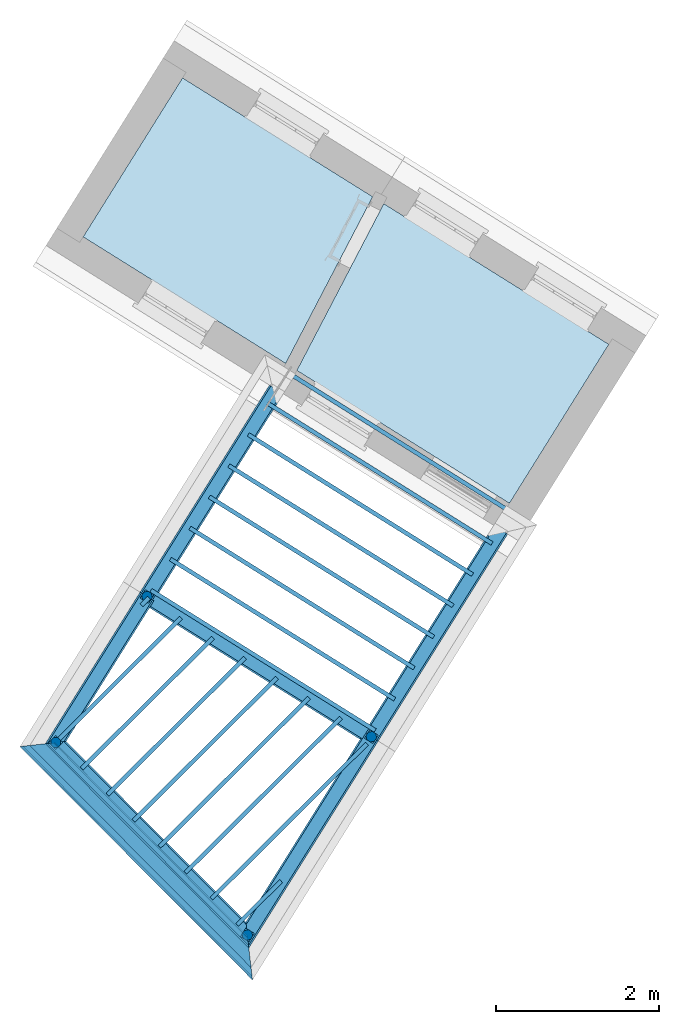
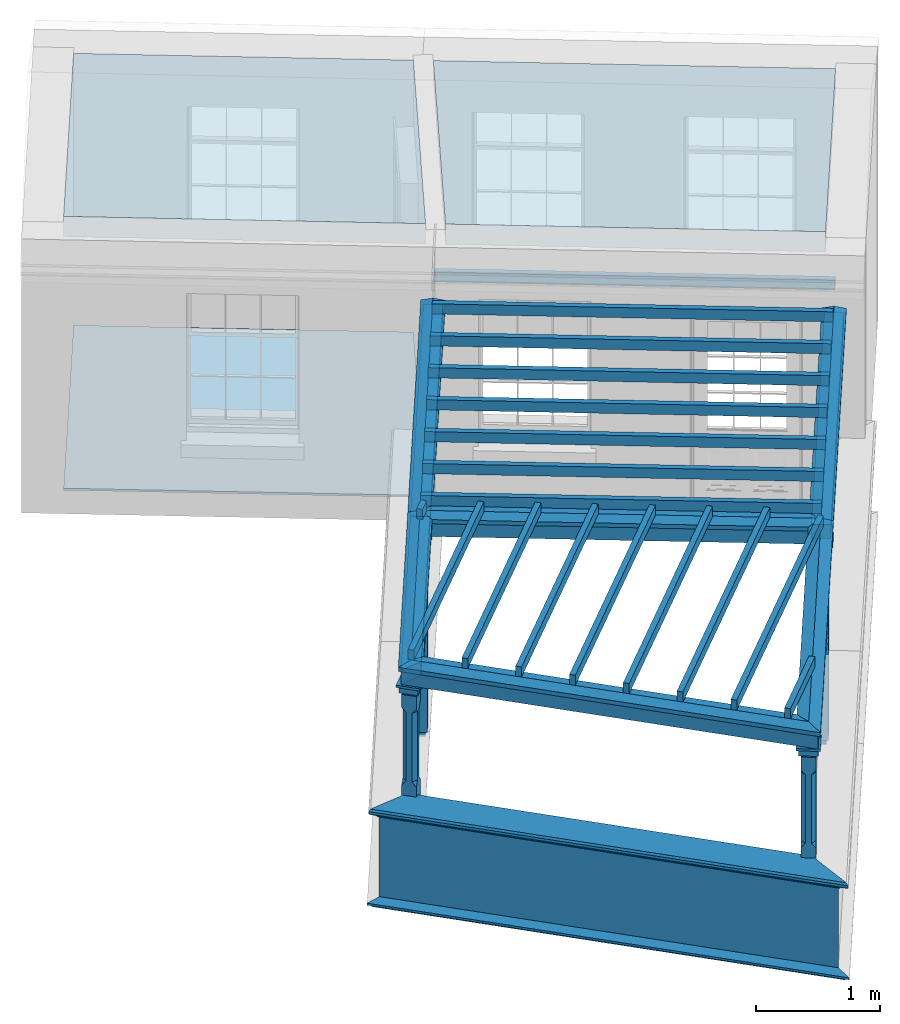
# One storey, part 1 of 5: 29 beams, 4 columns, 3 slabs, 3 walls.
"""IFC4 building model written with IfcOpenShell, lengths in metres."""

import ifcopenshell
import ifcopenshell.guid

model = None  # the IFC model being written
_history = None  # IfcOwnerHistory: only IFC2X3 demands one
_inside = {}  # id of a spatial element -> (the spatial element, [elements in it])
_under = {}  # id of a project, library or spatial element -> (it, [spatial elements below it])
_declared = {}  # id of a project -> (the project, [libraries it declares])
_typed = {}  # id of a type object -> (the type object, [elements of that type])
_made_of = {}  # id of a material, layer set ... -> (it, [elements and type objects made of it])


def new_model(schema):
    """Start an empty IFC model of exactly this schema.

    Asked for "IFC4X3", IfcOpenShell would pick the latest addendum, in which some entities
    have other attributes; the version numbers below select the first issue.
    IFC2X3 requires an IfcOwnerHistory on every rooted entity: one is made here for all.
    """
    global model, _history
    if schema == "IFC4X3":
        model = ifcopenshell.file(schema_version=(4, 3, 0, 0))
    else:
        model = ifcopenshell.file(schema=schema)
    _inside.clear()
    _under.clear()
    _declared.clear()
    _typed.clear()
    _made_of.clear()
    _history = None
    if model.schema == "IFC2X3":
        org = make("IfcOrganization", Name="unknown")
        user = make(
            "IfcPersonAndOrganization",
            ThePerson=make("IfcPerson", FamilyName="unknown"),
            TheOrganization=org,
        )
        app = make(
            "IfcApplication",
            ApplicationDeveloper=org,
            Version="unknown",
            ApplicationFullName="unknown",
            ApplicationIdentifier="unknown",
        )
        _history = make(
            "IfcOwnerHistory",
            OwningUser=user,
            OwningApplication=app,
            ChangeAction="ADDED",
            CreationDate=0,
        )
    return model


def make(cls, **values):
    """One entity of the class cls with the attributes given. An attribute that is None is left unset."""
    return model.create_entity(
        cls, **{name: value for name, value in values.items() if value is not None}
    )


def rooted(cls, **values):
    """An entity with a GlobalId (a new one), such as an element, a storey or a relation."""
    return make(cls, GlobalId=ifcopenshell.guid.new(), OwnerHistory=_history, **values)


def si_unit(unit_type, name, prefix=None):
    """IfcSIUnit, for example si_unit("LENGTHUNIT", "METRE", prefix="MILLI")."""
    return make("IfcSIUnit", UnitType=unit_type, Prefix=prefix, Name=name)


def assignment(units):
    """IfcUnitAssignment: the units of a project."""
    return None if units is None else make("IfcUnitAssignment", Units=units)


def point(xyz):
    """IfcCartesianPoint."""
    return None if xyz is None else make("IfcCartesianPoint", Coordinates=xyz)


def direction(xyz):
    """IfcDirection."""
    return None if xyz is None else make("IfcDirection", DirectionRatios=xyz)


def frame(location, z_axis=None, x_axis=None):
    """IfcAxis2Placement3D, a coordinate frame: its origin and axes. An axis left out is left unset."""
    return make(
        "IfcAxis2Placement3D",
        Location=point(location),
        Axis=direction(z_axis),
        RefDirection=direction(x_axis),
    )


def origin():
    """The frame at (0, 0, 0) with its axes left unset."""
    return frame((0.0, 0.0, 0.0))


def origin_with_axes():
    """The frame at (0, 0, 0) with the z axis (0, 0, 1) and the x axis (1, 0, 0) written out."""
    return frame((0.0, 0.0, 0.0), z_axis=(0.0, 0.0, 1.0), x_axis=(1.0, 0.0, 0.0))


def place(relative_to, where):
    """IfcLocalPlacement: puts the frame where relative to a parent placement (None: the world)."""
    return make(
        "IfcLocalPlacement", PlacementRelTo=relative_to, RelativePlacement=where
    )


def context(
    kind, dimensions, precision=None, world=None, true_north=None, identifier=None
):
    """IfcGeometricRepresentationContext, for example the 3D "Model" context."""
    return make(
        "IfcGeometricRepresentationContext",
        ContextIdentifier=identifier,
        ContextType=kind,
        CoordinateSpaceDimension=dimensions,
        Precision=precision,
        WorldCoordinateSystem=world,
        TrueNorth=true_north,
    )


def subcontext(parent, identifier, kind, view, scale=None):
    """IfcGeometricRepresentationSubContext, for example "Body" below "Model"."""
    return make(
        "IfcGeometricRepresentationSubContext",
        ContextIdentifier=identifier,
        ContextType=kind,
        ParentContext=parent,
        TargetScale=scale,
        TargetView=view,
    )


def project(units=None, contexts=None):
    """IfcProject with its units and contexts."""
    return rooted(
        "IfcProject",
        Name="project",
        RepresentationContexts=contexts,
        UnitsInContext=assignment(units),
    )


def spatial(cls, under=None, at=None, **own):
    """A site, building, storey or space (cls), placed at a placement, below another one or the project."""
    s = rooted(cls, ObjectPlacement=at, **own)
    if under is not None:
        _under.setdefault(under.id(), (under, []))[1].append(s)
    return s


def polyline(points):
    """IfcPolyline through the points."""
    return make("IfcPolyline", Points=[point(p) for p in points])


def outline(outer, holes=None, kind="AREA"):
    """IfcArbitraryClosedProfileDef: a profile drawn as a closed curve; with holes, ...WithVoids."""
    if holes is None:
        return make("IfcArbitraryClosedProfileDef", ProfileType=kind, OuterCurve=outer)
    return make(
        "IfcArbitraryProfileDefWithVoids",
        ProfileType=kind,
        OuterCurve=outer,
        InnerCurves=holes,
    )


def extrude(swept, where, along, depth):
    """IfcExtrudedAreaSolid: the profile swept, set in the frame where, extruded along a direction by depth."""
    return make(
        "IfcExtrudedAreaSolid",
        SweptArea=swept,
        Position=where,
        ExtrudedDirection=direction(along),
        Depth=depth,
    )


def clip(a, b, op="DIFFERENCE"):
    """IfcBooleanClippingResult: the solid a cut by the half space b."""
    return make(
        "IfcBooleanClippingResult", Operator=op, FirstOperand=a, SecondOperand=b
    )


def halfspace(plane, agree):
    """IfcHalfSpaceSolid: all space on one side of the plane z = 0 of the frame plane."""
    return make(
        "IfcHalfSpaceSolid",
        BaseSurface=make("IfcPlane", Position=plane),
        AgreementFlag=agree,
    )


def faces_of(points, faces, orient=None, outer=None):
    """IfcFace entities. A face is a list of loops; a loop is a list of indices into points, from 0.

    orient and outer hold one flag for each loop. By default every Orientation is true, the
    first loop of a face is its IfcFaceOuterBound and the others are IfcFaceBound.
    """
    made = []
    for i, loops in enumerate(faces):
        bounds = []
        for j, loop in enumerate(loops):
            is_outer = j == 0 if outer is None else outer[i][j]
            bounds.append(
                make(
                    "IfcFaceOuterBound" if is_outer else "IfcFaceBound",
                    Bound=make("IfcPolyLoop", Polygon=[points[k] for k in loop]),
                    Orientation=True if orient is None else orient[i][j],
                )
            )
        made.append(make("IfcFace", Bounds=bounds))
    return made


def faceted_brep(points, faces, orient=None, outer=None, voids=None):
    """IfcFacetedBrep: a solid bounded by flat faces; with voids (closed shells), ...WithVoids."""
    shared = [point(p) for p in points]
    hull = make("IfcClosedShell", CfsFaces=faces_of(shared, faces, orient, outer))
    if voids is None:
        return make("IfcFacetedBrep", Outer=hull)
    return make(
        "IfcFacetedBrepWithVoids",
        Outer=hull,
        Voids=[
            make(cls, CfsFaces=faces_of(shared, fs, o, b)) for cls, fs, o, b in voids
        ],
    )


def shape(context_of_items, identifier, shape_type, items):
    """IfcShapeRepresentation: the items that make up one representation, for example the "Body"."""
    return make(
        "IfcShapeRepresentation",
        ContextOfItems=context_of_items,
        RepresentationIdentifier=identifier,
        RepresentationType=shape_type,
        Items=items,
    )


def source(mapping_origin, context_of_items, identifier, shape_type, items):
    """IfcRepresentationMap: a shape defined once, which mapped items show again and again."""
    return make(
        "IfcRepresentationMap",
        MappingOrigin=mapping_origin,
        MappedRepresentation=shape(context_of_items, identifier, shape_type, items),
    )


def transform(
    local_origin,
    x_axis=None,
    y_axis=None,
    z_axis=None,
    scale=None,
    scale2=None,
    scale3=None,
    uniform=True,
):
    """IfcCartesianTransformationOperator3D, or its non-uniform kind. x_axis, y_axis, z_axis: its Axis1, 2, 3."""
    if uniform:
        return make(
            "IfcCartesianTransformationOperator3D",
            Axis1=direction(x_axis),
            Axis2=direction(y_axis),
            LocalOrigin=point(local_origin),
            Scale=scale,
            Axis3=direction(z_axis),
        )
    return make(
        "IfcCartesianTransformationOperator3DnonUniform",
        Axis1=direction(x_axis),
        Axis2=direction(y_axis),
        LocalOrigin=point(local_origin),
        Scale=scale,
        Axis3=direction(z_axis),
        Scale2=scale2,
        Scale3=scale3,
    )


def mapped(mapping_source, mapping_target):
    """IfcMappedItem: shows the shape of a source again, moved by a transform."""
    return make(
        "IfcMappedItem", MappingSource=mapping_source, MappingTarget=mapping_target
    )


def material_profile(
    of_material, cross_section, Name=None, Category=None, Priority=None
):
    """IfcMaterialProfile: a cross section and its material."""
    return make(
        "IfcMaterialProfile",
        Name=Name,
        Material=of_material,
        Profile=cross_section,
        Priority=Priority,
        Category=Category,
    )


def profile_set(profiles, Name=None, composite=None):
    """IfcMaterialProfileSet."""
    return make(
        "IfcMaterialProfileSet",
        Name=Name,
        MaterialProfiles=profiles,
        CompositeProfile=composite,
    )


def profile_usage(for_profile_set, cardinal=None, extent=None):
    """IfcMaterialProfileSetUsage: how a profile set lies along its element."""
    return make(
        "IfcMaterialProfileSetUsage",
        ForProfileSet=for_profile_set,
        CardinalPoint=cardinal,
        ReferenceExtent=extent,
    )


def made_of(thing, what):
    """Note that an element or type object is made of a material, layer set ...; save() writes the relation."""
    if what is not None:
        _made_of.setdefault(what.id(), (what, []))[1].append(thing)
    return thing


def type_object(cls, material=None, **own):
    """A type object (cls), such as IfcWallType, which elements share."""
    return made_of(rooted(cls, **own), material)


def type_shapes(of_type, sources):
    """Give a type object the sources (RepresentationMaps) that its elements show as mapped items."""
    of_type.RepresentationMaps = sources


def element(
    cls,
    number,
    at=None,
    inside=None,
    cuts=None,
    type_object=None,
    material=None,
    context=None,
    identifier="Body",
    shape_type=None,
    held_by="IfcProductDefinitionShape",
    body=None,
    shapes=None,
    **own,
):
    """One element of the class cls, such as IfcWall. Its Tag is "e" and its number.

    at: its placement. inside: the storey or other place that contains it. cuts: it is an
    opening in that element (IfcRelVoidsElement). A single representation is given by context,
    identifier, shape_type and body (its items); several are given by shapes. held_by: the class
    of the entity that holds the representations. save() writes the other relations.
    """
    e = rooted(cls, Tag="e%d" % number, ObjectPlacement=at, **own)
    if body is not None:
        shapes = [shape(context, identifier, shape_type, body)]
    if shapes is not None:
        e.Representation = make(held_by, Representations=shapes)
    if inside is not None:
        _inside.setdefault(inside.id(), (inside, []))[1].append(e)
    if cuts is not None:
        rooted(
            "IfcRelVoidsElement", RelatingBuildingElement=cuts, RelatedOpeningElement=e
        )
    if type_object is not None:
        _typed.setdefault(type_object.id(), (type_object, []))[1].append(e)
    return made_of(e, material)


def aggregate(whole, parts):
    """IfcRelAggregates: a whole, such as a stair, and the parts it consists of."""
    return rooted("IfcRelAggregates", RelatingObject=whole, RelatedObjects=parts)


def save(model, path):
    """Write the relations noted so far, then the file.

    IfcRelAggregates (storeys below a building ...), IfcRelContainedInSpatialStructure (elements
    in a storey), IfcRelDefinesByType, IfcRelAssociatesMaterial and IfcRelDeclares: one each for
    every whole, place, type object, material and project.
    """
    for whole, parts in _under.values():
        aggregate(whole, parts)
    for where, things in _inside.values():
        rooted(
            "IfcRelContainedInSpatialStructure",
            RelatedElements=things,
            RelatingStructure=where,
        )
    for kind, things in _typed.values():
        rooted("IfcRelDefinesByType", RelatedObjects=things, RelatingType=kind)
    for what, things in _made_of.values():
        rooted("IfcRelAssociatesMaterial", RelatedObjects=things, RelatingMaterial=what)
    for by, libraries in _declared.values():
        rooted("IfcRelDeclares", RelatingContext=by, RelatedDefinitions=libraries)
    model.write(path)


model = new_model("IFC4")

# Units and contexts
model_context = context("Model", 3, world=origin_with_axes())
body_context = subcontext(model_context, "Body", "Model", "MODEL_VIEW")
ifc_project = project(units=[si_unit("PLANEANGLEUNIT", "RADIAN"), si_unit("MASSUNIT", "GRAM", prefix="KILO"), si_unit("FORCEUNIT", "NEWTON", prefix="KILO"), si_unit("LENGTHUNIT", "METRE"), si_unit("AREAUNIT", "SQUARE_METRE"), si_unit("VOLUMEUNIT", "CUBIC_METRE")], contexts=[model_context, model_context])

# Sites, building, storey
site_1_placement = place(None, origin_with_axes())
site_1 = spatial("IfcSite", under=ifc_project, at=site_1_placement, Name="Tamar")
site_2_placement = place(site_1_placement, origin_with_axes())
site_2 = spatial("IfcSite", under=site_1, at=site_2_placement, Name="Site plot-3", CompositionType="ELEMENT")
building_placement = place(None, origin_with_axes())
building = spatial("IfcBuilding", under=site_2, at=building_placement, Name="Building plot-3", CompositionType="ELEMENT")
storey_placement = place(None, frame((0.0, 0.0, 30.5), z_axis=(0.0, 0.0, 1.0), x_axis=(1.0, 0.0, 0.0)))
storey = spatial("IfcBuildingStorey", under=building, at=storey_placement, Name="plot-3 2", CompositionType="ELEMENT", Elevation=30.5)

# Columns
column_type = type_object("IfcColumnType", Name="pergola post", PredefinedType="NOTDEFINED")
shared_shape = source(origin(), body_context, "Body", "Brep", [
    faceted_brep([(0.0246, -0.0615, 1.72), (0.0615, -0.0246, 1.72), (0.0615, -0.0615, 1.766667), (0.0615, -0.0246, 1.044444), (0.0246, -0.0615, 1.044444), (0.0615, 0.0246, 1.72), (0.0615, 0.0615, 1.766667), (-0.0246, -0.0615, 1.72), (-0.0615, -0.0615, 1.766667), (-0.0246, -0.0615, 1.044444), (0.0615, -0.0615, 0.997778), (0.0615, 0.0246, 1.044444), (0.0246, 0.0615, 1.72), (0.0615, 0.0615, 1.891111), (0.0615, -0.0615, 1.891111), (-0.0615, -0.0615, 1.891111), (-0.0615, -0.0246, 1.72), (-0.0615, -0.0246, 1.044444), (-0.0615, -0.0615, 0.997778), (0.0615, 0.0615, 0.997778), (0.0246, 0.0615, 1.044444), (-0.0246, 0.0615, 1.72), (-0.0615, 0.0615, 1.766667), (0.04305, 0.04305, 1.891111), (0.04305, -0.04305, 1.891111), (-0.0615, 0.0615, 1.891111), (-0.04305, -0.04305, 1.891111), (-0.0615, 0.0246, 1.72), (-0.0615, 0.0246, 1.044444), (0.0615, -0.0615, 0.053333), (-0.0615, -0.0615, 0.053333), (0.0615, 0.0615, 0.053333), (-0.0246, 0.0615, 1.044444), (-0.04305, 0.04305, 1.891111), (0.04305, 0.04305, 1.914444), (0.04305, -0.04305, 1.914444), (-0.04305, -0.04305, 1.914444), (-0.0615, 0.0615, 0.997778), (-0.0615, 0.0615, 0.053333), (-0.04305, -0.04305, 0.053333), (0.04305, -0.04305, 0.053333), (0.04305, 0.04305, 0.053333), (-0.04305, 0.04305, 1.914444), (0.07995, 0.07995, 1.914444), (0.07995, -0.07995, 1.914444), (-0.07995, -0.07995, 1.914444), (-0.04305, 0.04305, 0.053333), (-0.04305, -0.04305, 0.0), (0.04305, -0.04305, 0.0), (0.04305, 0.04305, 0.0), (-0.07995, 0.07995, 1.914444), (0.07995, 0.07995, 1.976667), (0.07995, -0.07995, 1.976667), (-0.07995, -0.07995, 1.976667), (-0.04305, 0.04305, 0.0), (-0.07995, 0.07995, 1.976667), (0.0984, 0.0984, 1.976667), (0.0984, -0.0984, 1.976667), (-0.0984, -0.0984, 1.976667), (-0.0984, 0.0984, 1.976667), (0.0984, 0.0984, 2.0), (0.0984, -0.0984, 2.0), (-0.0984, -0.0984, 2.0), (-0.0984, 0.0984, 2.0)], [[[0, 1, 2]], [[3, 1, 0, 4]], [[1, 5, 6, 2]], [[7, 0, 2, 8]], [[4, 0, 7, 9]], [[3, 4, 10]], [[1, 3, 11, 5]], [[5, 12, 6]], [[13, 14, 2, 6]], [[15, 8, 2, 14]], [[8, 16, 7]], [[9, 7, 16, 17]], [[9, 18, 10, 4]], [[3, 10, 19, 11]], [[20, 12, 5, 11]], [[21, 22, 6, 12]], [[14, 13, 23, 24]], [[13, 6, 22, 25]], [[25, 22, 8, 15]], [[26, 15, 14, 24]], [[16, 8, 22, 27]], [[27, 28, 17, 16]], [[17, 18, 9]], [[29, 10, 18, 30]], [[31, 19, 10, 29]], [[20, 11, 19]], [[12, 20, 32, 21]], [[21, 27, 22]], [[33, 23, 13, 25]], [[23, 34, 35, 24]], [[26, 33, 25, 15]], [[36, 26, 24, 35]], [[28, 27, 21, 32]], [[17, 28, 37, 18]], [[38, 30, 18, 37]], [[29, 30, 39, 40]], [[31, 38, 37, 19]], [[40, 41, 31, 29]], [[32, 20, 19, 37]], [[33, 42, 34, 23]], [[43, 44, 35, 34]], [[42, 33, 26, 36]], [[36, 35, 44, 45]], [[28, 32, 37]], [[46, 39, 30, 38]], [[39, 47, 48, 40]], [[46, 38, 31, 41]], [[49, 41, 40, 48]], [[43, 34, 42, 50]], [[43, 51, 52, 44]], [[45, 50, 42, 36]], [[53, 45, 44, 52]], [[46, 54, 47, 39]], [[54, 46, 41, 49]], [[50, 55, 51, 43]], [[56, 57, 52, 51]], [[55, 50, 45, 53]], [[53, 52, 57, 58]], [[56, 51, 55, 59]], [[56, 60, 61, 57]], [[58, 59, 55, 53]], [[62, 58, 57, 61]], [[59, 63, 60, 56]], [[63, 62, 61, 60]], [[58, 62, 63, 59]], [[47, 54, 49, 48]]]),
])
type_shapes(column_type, [shared_shape])
for number, where, z_axis, x_axis, name in (
    (1, (214.569377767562, 283.319229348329, 0.0), (0.0, 0.0, 1.0), (-0.530026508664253, -0.84798107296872, 0.0), "pergola post"),
    (2, (213.451676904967, 281.531037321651, 0.0), (0.0, 0.0, 1.0), (0.705643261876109, -0.708567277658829, 0.0), "pergola post"),
    (3, (215.799060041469, 279.1739271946, 0.0), (0.0, 0.0, 1.0), (0.530026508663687, 0.847981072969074, 0.0), "pergola post"),
    (4, (217.316723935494, 281.602013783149, 0.0), (0.0, 0.0, 1.0), (0.530026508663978, 0.847981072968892, 0.0), "pergola post"),
):
    element("IfcColumn", number, at=place(storey_placement, frame(where, z_axis=z_axis, x_axis=x_axis)), inside=storey, type_object=column_type, Name=name, context=body_context, shape_type="MappedRepresentation", body=[
        mapped(shared_shape, transform((0.0, 0.0, 0.0), scale=1.0)),
    ])

# Beams
ifc_material_profile_1 = material_profile(None, outline(polyline([(-0.08, -0.7), (0.08, -0.7), (0.08, -0.56), (-0.08, -0.56), (-0.08, -0.7)])))
ifc_profile_set_1 = profile_set([ifc_material_profile_1])
ifc_profile_usage_1 = profile_usage(ifc_profile_set_1)
beam_type_1 = type_object("IfcBeamType", Name="pergola beam_0", PredefinedType="NOTDEFINED", material=ifc_profile_set_1)
beam_1_placement = place(storey_placement, frame((214.039351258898, 282.47124827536, 2.7), z_axis=(0.530026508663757, 0.847981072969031, 0.0), x_axis=(-0.847981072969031, 0.530026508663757, 0.0)))
element("IfcBeam", 5, at=beam_1_placement, inside=storey, type_object=beam_type_1, material=ifc_profile_usage_1, Name="pergola beam_0", context=body_context, shape_type="Clipping", body=[
    clip(clip(extrude(outline(polyline([(-0.08, -0.7), (0.08, -0.7), (0.08, -0.56), (-0.08, -0.56), (-0.08, -0.7)])), origin_with_axes(), (0.0, 0.0, 1.0), 4.9905956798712), halfspace(frame((0.0, 0.0, 3.9905956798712), z_axis=(1.71512449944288e-15, 0.0, -1.0), x_axis=(0.0, 1.0, 0.0)), True)), halfspace(frame((0.0, 0.0, 1.0), z_axis=(1.71512449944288e-15, 0.0, -1.0), x_axis=(0.0, 1.0, 0.0)), False)),
])
ifc_profile_usage_2 = profile_usage(ifc_profile_set_1)
beam_2_placement = place(storey_placement, frame((212.921650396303, 280.683056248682, 2.7), z_axis=(0.530026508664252, 0.847981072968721, 0.0), x_axis=(-0.847981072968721, 0.530026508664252, 0.0)))
element("IfcBeam", 6, at=beam_2_placement, inside=storey, type_object=beam_type_1, material=ifc_profile_usage_2, Name="pergola beam_0", context=body_context, shape_type="Clipping", body=[
    clip(clip(extrude(outline(polyline([(-0.08, -0.7), (0.08, -0.7), (0.08, -0.56), (-0.08, -0.56), (-0.08, -0.7)])), origin_with_axes(), (0.0, 0.0, 1.0), 4.10876407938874), halfspace(frame((0.0, 0.0, 3.10876407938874), z_axis=(-5.82706275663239e-13, 0.0, -1.0), x_axis=(0.0, 1.0, 0.0)), True)), halfspace(frame((0.0, 0.0, 1.0), z_axis=(-0.621754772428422, 0.0, -0.783211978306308), x_axis=(0.0, 1.0, 0.0)), False)),
])
ifc_profile_usage_3 = profile_usage(ifc_profile_set_1)
beam_3_placement = place(storey_placement, frame((216.504703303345, 278.465359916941, 2.7), z_axis=(-0.705643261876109, 0.70856727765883, 0.0), x_axis=(-0.70856727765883, -0.705643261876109, 0.0)))
element("IfcBeam", 7, at=beam_3_placement, inside=storey, type_object=beam_type_1, material=ifc_profile_usage_3, Name="pergola beam_0", context=body_context, shape_type="Clipping", body=[
    clip(clip(extrude(outline(polyline([(-0.08, -0.7), (0.08, -0.7), (0.08, -0.56), (-0.08, -0.56), (-0.08, -0.7)])), origin_with_axes(), (0.0, 0.0, 1.0), 5.32658619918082), halfspace(frame((0.0, 0.0, 4.32658619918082), z_axis=(0.621754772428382, 0.0, -0.783211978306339), x_axis=(0.0, 1.0, 0.0)), True)), halfspace(frame((0.0, 0.0, 1.0), z_axis=(-0.783211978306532, 0.0, -0.621754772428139), x_axis=(0.0, 1.0, 0.0)), False)),
])
ifc_profile_usage_4 = profile_usage(ifc_profile_set_1)
beam_4_placement = place(storey_placement, frame((217.846750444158, 282.449994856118, 2.7), z_axis=(-0.530026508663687, -0.847981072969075, 0.0), x_axis=(0.847981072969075, -0.530026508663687, 0.0)))
element("IfcBeam", 8, at=beam_4_placement, inside=storey, type_object=beam_type_1, material=ifc_profile_usage_4, Name="pergola beam_0", context=body_context, shape_type="Clipping", body=[
    clip(clip(extrude(outline(polyline([(-0.08, -0.7), (0.08, -0.7), (0.08, -0.56), (-0.08, -0.56), (-0.08, -0.7)])), origin_with_axes(), (0.0, 0.0, 1.0), 4.86337356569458), halfspace(frame((0.0, 0.0, 3.86337356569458), z_axis=(0.78321197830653, 0.0, -0.621754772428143), x_axis=(0.0, 1.0, 0.0)), True)), halfspace(frame((0.0, 0.0, 1.0), z_axis=(6.60010580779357e-15, 0.0, -1.0), x_axis=(0.0, 1.0, 0.0)), False)),
])
ifc_profile_usage_5 = profile_usage(ifc_profile_set_1)
beam_5_placement = place(storey_placement, frame((219.431845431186, 284.985963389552, 2.7), z_axis=(-0.530026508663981, -0.847981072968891, 0.0), x_axis=(0.847981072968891, -0.530026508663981, 0.0)))
element("IfcBeam", 9, at=beam_5_placement, inside=storey, type_object=beam_type_1, material=ifc_profile_usage_5, Name="pergola beam_0", context=body_context, shape_type="Clipping", body=[
    clip(clip(extrude(outline(polyline([(-0.08, -0.7), (0.08, -0.7), (0.08, -0.56), (-0.08, -0.56), (-0.08, -0.7)])), origin_with_axes(), (0.0, 0.0, 1.0), 4.99059567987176), halfspace(frame((0.0, 0.0, 3.99059567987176), z_axis=(-3.40233567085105e-13, 0.0, -1.0), x_axis=(0.0, 1.0, 0.0)), True)), halfspace(frame((0.0, 0.0, 1.0), z_axis=(6.15601659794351e-15, 0.0, -1.0), x_axis=(0.0, 1.0, 0.0)), False)),
])
ifc_material_profile_2 = material_profile(None, outline(polyline([(0.0, -0.5), (-0.1, -0.52), (-0.1, -0.56), (0.1, -0.56), (0.1, -0.52), (0.0, -0.5)])))
ifc_profile_set_2 = profile_set([ifc_material_profile_2])
ifc_profile_usage_6 = profile_usage(ifc_profile_set_2)
beam_type_2 = type_object("IfcBeamType", Name="pergola beam_1", PredefinedType="NOTDEFINED", material=ifc_profile_set_2)
beam_6_placement = place(storey_placement, frame((214.039351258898, 282.47124827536, 2.7), z_axis=(0.530026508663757, 0.847981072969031, 0.0), x_axis=(-0.847981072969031, 0.530026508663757, 0.0)))
element("IfcBeam", 10, at=beam_6_placement, inside=storey, type_object=beam_type_2, material=ifc_profile_usage_6, Name="pergola beam_1", context=body_context, shape_type="Clipping", body=[
    clip(clip(extrude(outline(polyline([(0.0, -0.5), (-0.1, -0.52), (-0.1, -0.56), (0.1, -0.56), (0.1, -0.52), (0.0, -0.5)])), origin_with_axes(), (0.0, 0.0, 1.0), 4.9905956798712), halfspace(frame((0.0, 0.0, 3.9905956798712), z_axis=(1.71512449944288e-15, 0.0, -1.0), x_axis=(0.0, 1.0, 0.0)), True)), halfspace(frame((0.0, 0.0, 1.0), z_axis=(1.71512449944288e-15, 0.0, -1.0), x_axis=(0.0, 1.0, 0.0)), False)),
])
ifc_profile_usage_7 = profile_usage(ifc_profile_set_2)
beam_7_placement = place(storey_placement, frame((212.921650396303, 280.683056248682, 2.7), z_axis=(0.530026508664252, 0.847981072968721, 0.0), x_axis=(-0.847981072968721, 0.530026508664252, 0.0)))
element("IfcBeam", 11, at=beam_7_placement, inside=storey, type_object=beam_type_2, material=ifc_profile_usage_7, Name="pergola beam_1", context=body_context, shape_type="Clipping", body=[
    clip(clip(extrude(outline(polyline([(0.0, -0.5), (-0.1, -0.52), (-0.1, -0.56), (0.1, -0.56), (0.1, -0.52), (0.0, -0.5)])), origin_with_axes(), (0.0, 0.0, 1.0), 4.10876407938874), halfspace(frame((0.0, 0.0, 3.10876407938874), z_axis=(-5.82706275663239e-13, 0.0, -1.0), x_axis=(0.0, 1.0, 0.0)), True)), halfspace(frame((0.0, 0.0, 1.0), z_axis=(-0.621754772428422, 0.0, -0.783211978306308), x_axis=(0.0, 1.0, 0.0)), False)),
])
ifc_profile_usage_8 = profile_usage(ifc_profile_set_2)
beam_8_placement = place(storey_placement, frame((216.504703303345, 278.465359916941, 2.7), z_axis=(-0.705643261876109, 0.70856727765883, 0.0), x_axis=(-0.70856727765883, -0.705643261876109, 0.0)))
element("IfcBeam", 12, at=beam_8_placement, inside=storey, type_object=beam_type_2, material=ifc_profile_usage_8, Name="pergola beam_1", context=body_context, shape_type="Clipping", body=[
    clip(clip(extrude(outline(polyline([(0.0, -0.5), (-0.1, -0.52), (-0.1, -0.56), (0.1, -0.56), (0.1, -0.52), (0.0, -0.5)])), origin_with_axes(), (0.0, 0.0, 1.0), 5.32658619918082), halfspace(frame((0.0, 0.0, 4.32658619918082), z_axis=(0.621754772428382, 0.0, -0.783211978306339), x_axis=(0.0, 1.0, 0.0)), True)), halfspace(frame((0.0, 0.0, 1.0), z_axis=(-0.783211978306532, 0.0, -0.621754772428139), x_axis=(0.0, 1.0, 0.0)), False)),
])
ifc_profile_usage_9 = profile_usage(ifc_profile_set_2)
beam_9_placement = place(storey_placement, frame((217.846750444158, 282.449994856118, 2.7), z_axis=(-0.530026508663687, -0.847981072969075, 0.0), x_axis=(0.847981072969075, -0.530026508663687, 0.0)))
element("IfcBeam", 13, at=beam_9_placement, inside=storey, type_object=beam_type_2, material=ifc_profile_usage_9, Name="pergola beam_1", context=body_context, shape_type="Clipping", body=[
    clip(clip(extrude(outline(polyline([(0.0, -0.5), (-0.1, -0.52), (-0.1, -0.56), (0.1, -0.56), (0.1, -0.52), (0.0, -0.5)])), origin_with_axes(), (0.0, 0.0, 1.0), 4.86337356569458), halfspace(frame((0.0, 0.0, 3.86337356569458), z_axis=(0.78321197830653, 0.0, -0.621754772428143), x_axis=(0.0, 1.0, 0.0)), True)), halfspace(frame((0.0, 0.0, 1.0), z_axis=(6.60010580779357e-15, 0.0, -1.0), x_axis=(0.0, 1.0, 0.0)), False)),
])
ifc_profile_usage_10 = profile_usage(ifc_profile_set_2)
beam_10_placement = place(storey_placement, frame((219.431845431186, 284.985963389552, 2.7), z_axis=(-0.530026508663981, -0.847981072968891, 0.0), x_axis=(0.847981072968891, -0.530026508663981, 0.0)))
element("IfcBeam", 14, at=beam_10_placement, inside=storey, type_object=beam_type_2, material=ifc_profile_usage_10, Name="pergola beam_1", context=body_context, shape_type="Clipping", body=[
    clip(clip(extrude(outline(polyline([(0.0, -0.5), (-0.1, -0.52), (-0.1, -0.56), (0.1, -0.56), (0.1, -0.52), (0.0, -0.5)])), origin_with_axes(), (0.0, 0.0, 1.0), 4.99059567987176), halfspace(frame((0.0, 0.0, 3.99059567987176), z_axis=(-3.40233567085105e-13, 0.0, -1.0), x_axis=(0.0, 1.0, 0.0)), True)), halfspace(frame((0.0, 0.0, 1.0), z_axis=(6.15601659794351e-15, 0.0, -1.0), x_axis=(0.0, 1.0, 0.0)), False)),
])
ifc_material_profile_3 = material_profile(None, outline(polyline([(-0.08, -0.7), (0.08, -0.7), (0.08, -0.56), (-0.08, -0.56), (-0.08, -0.7)])))
ifc_profile_set_3 = profile_set([ifc_material_profile_3])
ifc_profile_usage_11 = profile_usage(ifc_profile_set_3)
beam_type_3 = type_object("IfcBeamType", Name="pergola beam_0", PredefinedType="NOTDEFINED", material=ifc_profile_set_3)
beam_11_placement = place(storey_placement, frame((218.122305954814, 281.098488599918, 2.7), z_axis=(-0.847981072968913, 0.530026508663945, 0.0), x_axis=(-0.530026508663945, -0.847981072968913, 0.0)))
element("IfcBeam", 15, at=beam_11_placement, inside=storey, type_object=beam_type_3, material=ifc_profile_usage_11, Name="pergola beam_0", context=body_context, shape_type="Clipping", body=[
    clip(clip(extrude(outline(polyline([(-0.08, -0.7), (0.08, -0.7), (0.08, -0.56), (-0.08, -0.56), (-0.08, -0.7)])), origin_with_axes(), (0.0, 0.0, 1.0), 5.13986732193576), halfspace(frame((0.0, 0.0, 4.13986732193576), z_axis=(-6.05643667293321e-15, 0.0, -1.0), x_axis=(0.0, 1.0, 0.0)), True)), halfspace(frame((0.0, 0.0, 1.0), z_axis=(-6.05643667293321e-15, 0.0, -1.0), x_axis=(0.0, 1.0, 0.0)), False)),
])
ifc_material_profile_4 = material_profile(None, outline(polyline([(0.0, -0.5), (-0.1, -0.52), (-0.1, -0.56), (0.1, -0.56), (0.1, -0.52), (0.0, -0.5)])))
ifc_profile_set_4 = profile_set([ifc_material_profile_4])
ifc_profile_usage_12 = profile_usage(ifc_profile_set_4)
beam_type_4 = type_object("IfcBeamType", Name="pergola beam_1", PredefinedType="NOTDEFINED", material=ifc_profile_set_4)
beam_12_placement = place(storey_placement, frame((218.122305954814, 281.098488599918, 2.7), z_axis=(-0.847981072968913, 0.530026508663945, 0.0), x_axis=(-0.530026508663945, -0.847981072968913, 0.0)))
element("IfcBeam", 16, at=beam_12_placement, inside=storey, type_object=beam_type_4, material=ifc_profile_usage_12, Name="pergola beam_1", context=body_context, shape_type="Clipping", body=[
    clip(clip(extrude(outline(polyline([(0.0, -0.5), (-0.1, -0.52), (-0.1, -0.56), (0.1, -0.56), (0.1, -0.52), (0.0, -0.5)])), origin_with_axes(), (0.0, 0.0, 1.0), 5.13986732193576), halfspace(frame((0.0, 0.0, 4.13986732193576), z_axis=(-6.05643667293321e-15, 0.0, -1.0), x_axis=(0.0, 1.0, 0.0)), True)), halfspace(frame((0.0, 0.0, 1.0), z_axis=(-6.05643667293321e-15, 0.0, -1.0), x_axis=(0.0, 1.0, 0.0)), False)),
])
beam_13_placement = place(storey_placement, frame((216.300230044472, 286.088392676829, 2.2)))
element("IfcBeam", 17, at=beam_13_placement, inside=storey, Name="My Beam", ObjectType="Beam", context=body_context, shape_type="SweptSolid", body=[
    extrude(outline(polyline([(0.0, 0.0), (-0.0265013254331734, -0.0423990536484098), (2.72084484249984, -1.75961461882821), (2.74734616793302, -1.7172155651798), (0.0, 0.0)])), origin_with_axes(), (0.0, 0.0, 1.0), 0.1),
])
beam_14_placement = place(storey_placement, frame((216.061718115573, 285.706801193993, 2.2)))
element("IfcBeam", 18, at=beam_14_placement, inside=storey, Name="My Beam", ObjectType="Beam", context=body_context, shape_type="SweptSolid", body=[
    extrude(outline(polyline([(0.0, 0.0), (-0.0265013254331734, -0.0423990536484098), (2.72084484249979, -1.75961461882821), (2.74734616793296, -1.7172155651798), (0.0, 0.0)])), origin_with_axes(), (0.0, 0.0, 1.0), 0.1),
])
beam_15_placement = place(storey_placement, frame((215.823206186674, 285.325209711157, 2.2)))
element("IfcBeam", 19, at=beam_15_placement, inside=storey, Name="My Beam", ObjectType="Beam", context=body_context, shape_type="SweptSolid", body=[
    extrude(outline(polyline([(0.0, 0.0), (-0.0265013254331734, -0.0423990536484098), (2.72084484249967, -1.75961461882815), (2.74734616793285, -1.71721556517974), (0.0, 0.0)])), origin_with_axes(), (0.0, 0.0, 1.0), 0.1),
])
beam_16_placement = place(storey_placement, frame((215.584694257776, 284.943618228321, 2.2)))
element("IfcBeam", 20, at=beam_16_placement, inside=storey, Name="My Beam", ObjectType="Beam", context=body_context, shape_type="SweptSolid", body=[
    extrude(outline(polyline([(0.0, 0.0), (-0.0265013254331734, -0.0423990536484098), (2.72084484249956, -1.75961461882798), (2.74734616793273, -1.71721556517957), (0.0, 0.0)])), origin_with_axes(), (0.0, 0.0, 1.0), 0.1),
])
beam_17_placement = place(storey_placement, frame((215.346182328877, 284.562026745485, 2.2)))
element("IfcBeam", 21, at=beam_17_placement, inside=storey, Name="My Beam", ObjectType="Beam", context=body_context, shape_type="SweptSolid", body=[
    extrude(outline(polyline([(0.0, 0.0), (-0.0265013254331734, -0.0423990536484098), (2.72084484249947, -1.75961461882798), (2.74734616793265, -1.71721556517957), (0.0, 0.0)])), origin_with_axes(), (0.0, 0.0, 1.0), 0.1),
])
beam_18_placement = place(storey_placement, frame((215.107670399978, 284.180435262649, 2.2)))
element("IfcBeam", 22, at=beam_18_placement, inside=storey, Name="My Beam", ObjectType="Beam", context=body_context, shape_type="SweptSolid", body=[
    extrude(outline(polyline([(0.0, 0.0), (-0.0265013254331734, -0.0423990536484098), (2.72084484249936, -1.75961461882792), (2.74734616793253, -1.71721556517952), (0.0, 0.0)])), origin_with_axes(), (0.0, 0.0, 1.0), 0.1),
])
beam_19_placement = place(storey_placement, frame((214.869158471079, 283.798843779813, 2.2)))
element("IfcBeam", 23, at=beam_19_placement, inside=storey, Name="My Beam", ObjectType="Beam", context=body_context, shape_type="SweptSolid", body=[
    extrude(outline(polyline([(0.0, 0.0), (-0.0265013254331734, -0.0423990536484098), (2.72084484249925, -1.75961461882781), (2.74734616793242, -1.7172155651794), (0.0, 0.0)])), origin_with_axes(), (0.0, 0.0, 1.0), 0.1),
])
beam_20_placement = place(storey_placement, frame((214.630646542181, 283.417252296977, 2.2)))
element("IfcBeam", 24, at=beam_20_placement, inside=storey, Name="My Beam", ObjectType="Beam", context=body_context, shape_type="SweptSolid", body=[
    extrude(outline(polyline([(0.0, 0.0), (-0.0265013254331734, -0.0423990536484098), (2.72084484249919, -1.75961461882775), (2.74734616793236, -1.71721556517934), (0.0, 0.0)])), origin_with_axes(), (0.0, 0.0, 1.0), 0.1),
])
beam_21_placement = place(storey_placement, frame((214.485480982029, 283.230942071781, 2.2)))
element("IfcBeam", 25, at=beam_21_placement, inside=storey, Name="My Beam", ObjectType="Beam", context=body_context, shape_type="SweptSolid", body=[
    extrude(outline(polyline([(0.0, 0.0), (0.0352821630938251, -0.0354283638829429), (0.126227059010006, 0.055141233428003), (0.0909448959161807, 0.0905695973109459), (0.0, 0.0)])), origin_with_axes(), (0.0, 0.0, 1.0), 0.1),
])
beam_22_placement = place(storey_placement, frame((213.43403582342, 281.548751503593, 2.2)))
element("IfcBeam", 26, at=beam_22_placement, inside=storey, Name="My Beam", ObjectType="Beam", context=body_context, shape_type="SweptSolid", body=[
    extrude(outline(polyline([(0.0, 0.0), (0.0352821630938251, -0.0354283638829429), (1.56947744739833, 1.49243581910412), (1.5341952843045, 1.52786418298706), (0.0, 0.0)])), origin_with_axes(), (0.0, 0.0, 1.0), 0.1),
])
beam_23_placement = place(storey_placement, frame((213.751575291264, 281.229896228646, 2.2)))
element("IfcBeam", 27, at=beam_23_placement, inside=storey, Name="My Beam", ObjectType="Beam", context=body_context, shape_type="SweptSolid", body=[
    extrude(outline(polyline([(0.0, 0.0), (0.0352821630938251, -0.0354283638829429), (1.64374320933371, 1.56639511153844), (1.60846104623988, 1.60182347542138), (0.0, 0.0)])), origin_with_axes(), (0.0, 0.0, 1.0), 0.1),
])
beam_24_placement = place(storey_placement, frame((214.069114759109, 280.9110409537, 2.2)))
element("IfcBeam", 28, at=beam_24_placement, inside=storey, Name="My Beam", ObjectType="Beam", context=body_context, shape_type="SweptSolid", body=[
    extrude(outline(polyline([(0.0, 0.0), (0.0352821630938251, -0.0354283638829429), (1.71800897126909, 1.64035440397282), (1.68272680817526, 1.67578276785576), (0.0, 0.0)])), origin_with_axes(), (0.0, 0.0, 1.0), 0.1),
])
beam_25_placement = place(storey_placement, frame((214.386654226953, 280.592185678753, 2.2)))
element("IfcBeam", 29, at=beam_25_placement, inside=storey, Name="My Beam", ObjectType="Beam", context=body_context, shape_type="SweptSolid", body=[
    extrude(outline(polyline([(0.0, 0.0), (0.0352821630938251, -0.0354283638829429), (1.79227473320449, 1.71431369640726), (1.75699257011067, 1.7497420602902), (0.0, 0.0)])), origin_with_axes(), (0.0, 0.0, 1.0), 0.1),
])
beam_26_placement = place(storey_placement, frame((214.704193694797, 280.273330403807, 2.2)))
element("IfcBeam", 30, at=beam_26_placement, inside=storey, Name="My Beam", ObjectType="Beam", context=body_context, shape_type="SweptSolid", body=[
    extrude(outline(polyline([(0.0, 0.0), (0.0352821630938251, -0.0354283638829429), (1.8665404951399, 1.7882729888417), (1.83125833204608, 1.82370135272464), (0.0, 0.0)])), origin_with_axes(), (0.0, 0.0, 1.0), 0.1),
])
beam_27_placement = place(storey_placement, frame((215.021733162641, 279.95447512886, 2.2)))
element("IfcBeam", 31, at=beam_27_placement, inside=storey, Name="My Beam", ObjectType="Beam", context=body_context, shape_type="SweptSolid", body=[
    extrude(outline(polyline([(0.0, 0.0), (0.0352821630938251, -0.0354283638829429), (1.94080625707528, 1.86223228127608), (1.90552409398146, 1.89766064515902), (0.0, 0.0)])), origin_with_axes(), (0.0, 0.0, 1.0), 0.1),
])
beam_28_placement = place(storey_placement, frame((215.339272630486, 279.635619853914, 2.2)))
element("IfcBeam", 32, at=beam_28_placement, inside=storey, Name="My Beam", ObjectType="Beam", context=body_context, shape_type="SweptSolid", body=[
    extrude(outline(polyline([(0.0, 0.0), (0.0352821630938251, -0.0354283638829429), (1.94147521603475, 1.86289847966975), (1.90619305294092, 1.8983268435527), (0.0, 0.0)])), origin_with_axes(), (0.0, 0.0, 1.0), 0.1),
])
beam_29_placement = place(storey_placement, frame((215.65681209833, 279.316764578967, 2.2)))
element("IfcBeam", 33, at=beam_29_placement, inside=storey, Name="My Beam", ObjectType="Beam", context=body_context, shape_type="SweptSolid", body=[
    extrude(outline(polyline([(0.0, 0.0), (0.0352821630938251, -0.0354283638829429), (0.572490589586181, 0.49956318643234), (0.537208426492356, 0.534991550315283), (0.0, 0.0)])), origin_with_axes(), (0.0, 0.0, 1.0), 0.1),
])

# Slabs
slab_1_placement = place(storey_placement, frame((217.333583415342, 288.215514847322, 2.5)))
element("IfcSlab", 34, at=slab_1_placement, inside=storey, Name="My Slab", ObjectType="Slab", PredefinedType="FLOOR", context=body_context, shape_type="SweptSolid", body=[
    extrude(outline(polyline([(0.0, 0.0), (-2.32896868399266, 1.45571072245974), (-3.54615549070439, -0.49164730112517), (-1.06538868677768, -2.04223871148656), (0.0, 0.0)])), origin_with_axes(), (0.0, 0.0, 1.0), 0.2),
])
slab_2_placement = place(storey_placement, frame((217.333583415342, 288.215514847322, 0.0)))
element("IfcSlab", 35, at=slab_2_placement, inside=storey, Name="My Slab", ObjectType="Slab", PredefinedType="FLOOR", context=body_context, shape_type="SweptSolid", body=[
    extrude(outline(polyline([(0.0, 0.0), (-2.32896868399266, 1.45571072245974), (-3.54615549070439, -0.49164730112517), (-1.06538868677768, -2.04223871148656), (0.0, 0.0)])), origin_with_axes(), (0.0, 0.0, 1.0), 0.02),
])
slab_3_placement = place(storey_placement, frame((217.469671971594, 288.130453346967, 2.5)))
element("IfcSlab", 36, at=slab_3_placement, inside=storey, Name="My Slab", ObjectType="Slab", PredefinedType="FLOOR", context=body_context, shape_type="SweptSolid", body=[
    extrude(outline(polyline([(0.0, 0.0), (-1.06538868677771, -2.04223871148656), (1.53921721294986, -3.67023515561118), (2.75640401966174, -1.7228771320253), (0.0, 0.0)])), origin_with_axes(), (0.0, 0.0, 1.0), 0.2),
])

# Walls
ifc_material_profile_5 = material_profile(None, outline(polyline([(0.25, 0.0), (0.25, 0.795), (0.09, 0.795), (0.09, 0.02), (-0.08, 0.02), (-0.08, 0.0), (0.25, 0.0)])))
ifc_profile_set_5 = profile_set([ifc_material_profile_5])
ifc_profile_usage_13 = profile_usage(ifc_profile_set_5)
wall_type_1 = type_object("IfcWallType", Name="parapet_0", PredefinedType="PARAPET", material=ifc_profile_set_5)
wall_1_placement = place(storey_placement, frame((216.504703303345, 278.465359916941, 0.0), z_axis=(-0.705643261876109, 0.70856727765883, 0.0), x_axis=(-0.70856727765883, -0.705643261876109, 0.0)))
element("IfcWall", 37, at=wall_1_placement, inside=storey, type_object=wall_type_1, material=ifc_profile_usage_13, Name="parapet_0", context=body_context, shape_type="Clipping", body=[
    clip(clip(extrude(outline(polyline([(0.25, 0.0), (0.25, 0.795), (0.09, 0.795), (0.09, 0.02), (-0.08, 0.02), (-0.08, 0.0), (0.25, 0.0)])), origin_with_axes(), (0.0, 0.0, 1.0), 5.32658619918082), halfspace(frame((0.0, 0.0, 4.32658619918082), z_axis=(0.621754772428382, 0.0, -0.783211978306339), x_axis=(0.0, 1.0, 0.0)), True)), halfspace(frame((0.0, 0.0, 1.0), z_axis=(-0.783211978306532, 0.0, -0.621754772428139), x_axis=(0.0, 1.0, 0.0)), False)),
])
ifc_material_profile_6 = material_profile(None, outline(polyline([(0.265, 0.795), (0.268, 0.807), (0.274, 0.816), (0.283, 0.822), (0.295, 0.825), (0.295, 0.84), (0.305, 0.84), (0.317, 0.842), (0.326, 0.849), (0.333, 0.858), (0.335, 0.87), (0.333, 0.882), (0.326, 0.891), (0.317, 0.898), (0.305, 0.9), (0.035, 0.9), (0.023, 0.898), (0.014, 0.891), (0.007, 0.882), (0.005, 0.87), (0.007, 0.858), (0.014, 0.849), (0.023, 0.842), (0.035, 0.84), (0.045, 0.84), (0.045, 0.825), (0.057, 0.822), (0.066, 0.816), (0.072, 0.807), (0.075, 0.795), (0.265, 0.795)])))
ifc_profile_set_6 = profile_set([ifc_material_profile_6])
ifc_profile_usage_14 = profile_usage(ifc_profile_set_6)
wall_type_2 = type_object("IfcWallType", Name="parapet_1", PredefinedType="PARAPET", material=ifc_profile_set_6)
wall_2_placement = place(storey_placement, frame((216.504703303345, 278.465359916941, 0.0), z_axis=(-0.705643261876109, 0.70856727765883, 0.0), x_axis=(-0.70856727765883, -0.705643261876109, 0.0)))
element("IfcWall", 38, at=wall_2_placement, inside=storey, type_object=wall_type_2, material=ifc_profile_usage_14, Name="parapet_1", context=body_context, shape_type="Clipping", body=[
    clip(clip(extrude(outline(polyline([(0.265, 0.795), (0.268, 0.807), (0.274, 0.816), (0.283, 0.822), (0.295, 0.825), (0.295, 0.84), (0.305, 0.84), (0.317, 0.842), (0.326, 0.849), (0.333, 0.858), (0.335, 0.87), (0.333, 0.882), (0.326, 0.891), (0.317, 0.898), (0.305, 0.9), (0.035, 0.9), (0.023, 0.898), (0.014, 0.891), (0.007, 0.882), (0.005, 0.87), (0.007, 0.858), (0.014, 0.849), (0.023, 0.842), (0.035, 0.84), (0.045, 0.84), (0.045, 0.825), (0.057, 0.822), (0.066, 0.816), (0.072, 0.807), (0.075, 0.795), (0.265, 0.795)])), origin_with_axes(), (0.0, 0.0, 1.0), 5.32658619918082), halfspace(frame((0.0, 0.0, 4.32658619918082), z_axis=(0.621754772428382, 0.0, -0.783211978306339), x_axis=(0.0, 1.0, 0.0)), True)), halfspace(frame((0.0, 0.0, 1.0), z_axis=(-0.783211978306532, 0.0, -0.621754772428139), x_axis=(0.0, 1.0, 0.0)), False)),
])
ifc_material_profile_7 = material_profile(None, outline(polyline([(0.25, -0.1), (0.265, -0.1), (0.265, -0.085), (0.278, -0.084), (0.289, -0.081), (0.301, -0.074), (0.309, -0.065), (0.315, -0.055), (0.324, -0.044), (0.334, -0.038), (0.345, -0.035), (0.345, -0.015), (0.25, 0.0), (0.25, -0.1)])))
ifc_profile_set_7 = profile_set([ifc_material_profile_7])
ifc_profile_usage_15 = profile_usage(ifc_profile_set_7)
wall_type_3 = type_object("IfcWallType", Name="parapet_2", PredefinedType="PARAPET", material=ifc_profile_set_7)
wall_3_placement = place(storey_placement, frame((216.504703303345, 278.465359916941, 0.0), z_axis=(-0.705643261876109, 0.70856727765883, 0.0), x_axis=(-0.70856727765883, -0.705643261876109, 0.0)))
element("IfcWall", 39, at=wall_3_placement, inside=storey, type_object=wall_type_3, material=ifc_profile_usage_15, Name="parapet_2", context=body_context, shape_type="Clipping", body=[
    clip(clip(extrude(outline(polyline([(0.25, -0.1), (0.265, -0.1), (0.265, -0.085), (0.278, -0.084), (0.289, -0.081), (0.301, -0.074), (0.309, -0.065), (0.315, -0.055), (0.324, -0.044), (0.334, -0.038), (0.345, -0.035), (0.345, -0.015), (0.25, 0.0), (0.25, -0.1)])), origin_with_axes(), (0.0, 0.0, 1.0), 5.32658619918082), halfspace(frame((0.0, 0.0, 4.32658619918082), z_axis=(0.621754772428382, 0.0, -0.783211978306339), x_axis=(0.0, 1.0, 0.0)), True)), halfspace(frame((0.0, 0.0, 1.0), z_axis=(-0.783211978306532, 0.0, -0.621754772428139), x_axis=(0.0, 1.0, 0.0)), False)),
])

save(model, "model.ifc")
